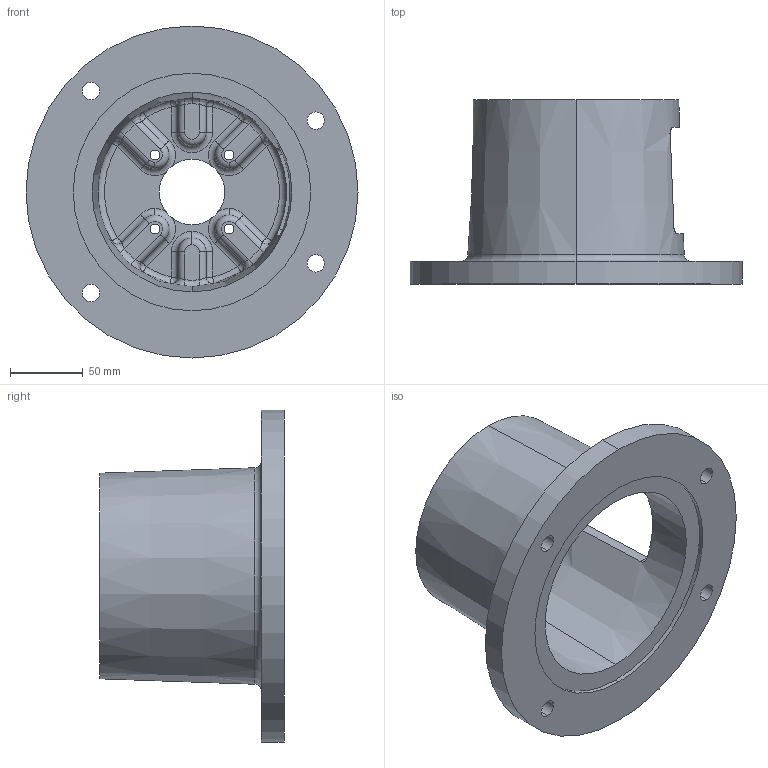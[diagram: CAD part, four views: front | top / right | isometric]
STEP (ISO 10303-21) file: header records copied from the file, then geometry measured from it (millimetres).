
FILE_DESCRIPTION (( 'STEP AP203' ), '1' );
FILE_NAME ('E700504F.STEP', '2014-11-04T12:51:58', ( '' ), ( '' ), 'SwSTEP 2.0', 'SolidWorks 2014', '' );
FILE_SCHEMA (( 'CONFIG_CONTROL_DESIGN' ));
Length unit declared in the file: inch
Products named in the file (1): E700504F
Bounding box: 228.6 x 127 x 228.6 mm (x, y, z)
Volume: 793410.4 mm3; surface area: 185765.9 mm2
Topology: 1 solids, 1 shells, 162 faces, 395 edges, 225 vertices
Faces by surface type: cylinder 59, torus 33, plane 30, bspline 24, sphere 12, cone 4
Entity records: 6342 total; most frequent: CARTESIAN_POINT 2557, DIRECTION 819, ORIENTED_EDGE 766, EDGE_CURVE 383, AXIS2_PLACEMENT_3D 361, VERTEX_POINT 225, CIRCLE 222, EDGE_LOOP 184
